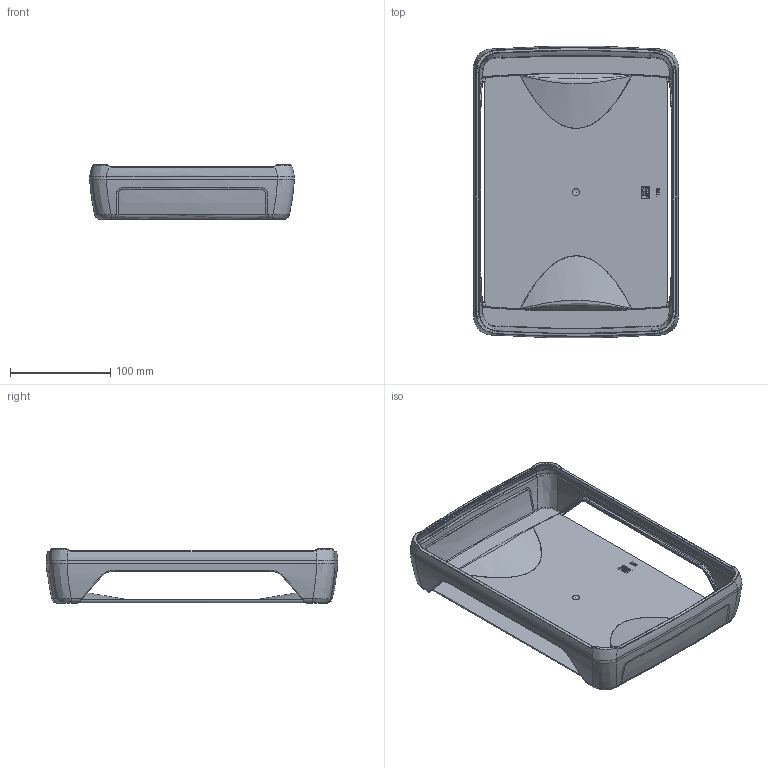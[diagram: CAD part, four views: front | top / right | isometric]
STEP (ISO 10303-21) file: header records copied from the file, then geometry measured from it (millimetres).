
FILE_DESCRIPTION(/* description */ (''),/* implementation_level */ '2;1');
FILE_NAME(/* name */ '\\storage2\Abteilungen\Konstruktion\Abteilung\User\Daten\DWG\Anw\AR\BoPad STEP\35310105_BOP 10.1 S-9005.stp',/* time_stamp */ '2016-11-18T10:04:46+01:00',/* author */ ('arempel'),/* organization */ ('Fa. Bopla'),/* preprocessor_version */ 'ST-DEVELOPER v16.1',/* originating_system */ 'Autodesk Inventor 2016',/* authorisation */ '');
FILE_SCHEMA (('AUTOMOTIVE_DESIGN { 1 0 10303 214 3 1 1 }'));
Length unit declared in the file: millimetre
Products named in the file (1): 1011106_3D-S 10.1
Bounding box: 204.01 x 290.34 x 54.3 mm (x, y, z)
Volume: 248722 mm3; surface area: 180162.9 mm2
Topology: 1 solids, 1 shells, 688 faces, 1682 edges, 1011 vertices
Faces by surface type: bspline 310, plane 180, cylinder 80, torus 62, cone 55, sphere 1
Entity records: 43678 total; most frequent: CARTESIAN_POINT 29633, ORIENTED_EDGE 3330, DIRECTION 2226, EDGE_CURVE 1665, VERTEX_POINT 1009, AXIS2_PLACEMENT_3D 876, EDGE_LOOP 722, FACE_OUTER_BOUND 688
